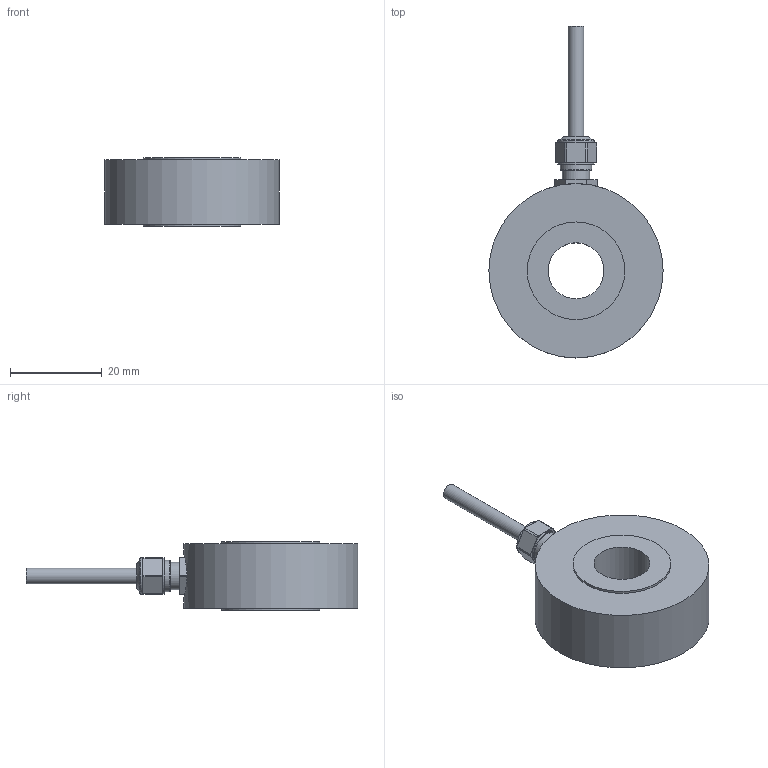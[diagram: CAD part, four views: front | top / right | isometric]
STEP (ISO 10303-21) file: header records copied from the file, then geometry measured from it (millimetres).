
FILE_DESCRIPTION(/* description */ (''),/* implementation_level */ '2;1');
FILE_NAME(/* name */ 'I:/New Datasheets/STEP Models/Pending models/CCG-50kN-003-000.step',/* time_stamp */ '2019-08-16T13:47:48+01:00',/* author */ (''),/* organization */ (''),/* preprocessor_version */ 'ST-DEVELOPER v18',/* originating_system */ 'Autodesk Translation Framework v8.6.0.1094',/* authorisation */ '');
FILE_SCHEMA (('AUTOMOTIVE_DESIGN { 1 0 10303 214 3 1 1 }'));
Length unit declared in the file: millimetre
Products named in the file (2): CCG-50kN-003-000 -; CCG-50kN-003-000
Assembly tree (1 placements, depth 2):
  CCG-50kN-003-000 -
    CCG-50kN-003-000
Bounding box: 38 x 72.38 x 15 mm (x, y, z)
Volume: 15055.6 mm3; surface area: 5544.2 mm2
Topology: 1 solids, 4 shells, 87 faces, 217 edges, 153 vertices
Faces by surface type: plane 35, cylinder 32, cone 12, torus 8
Full cylindrical faces by diameter (mm): 3.4 x2, 3.6 x1, 3.7 x1, 4.7 x1, 4.773 x1, 4.8 x2, 5.035 x1, 5.93 x1, 6.2 x1, 6.38 x1, 6.84 x1, 7.9 x2, 10 x1, 12.2 x1, 21.3 x2, 38 x1
Entity records: 2778 total; most frequent: CARTESIAN_POINT 518, DIRECTION 516, ORIENTED_EDGE 432, AXIS2_PLACEMENT_3D 224, EDGE_CURVE 216, VERTEX_POINT 153, CIRCLE 134, EDGE_LOOP 109
